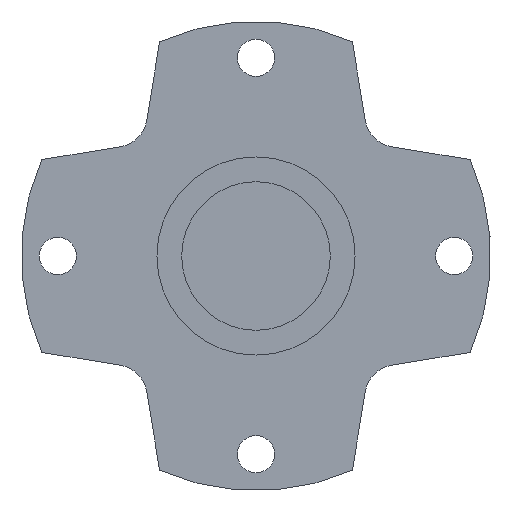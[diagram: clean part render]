
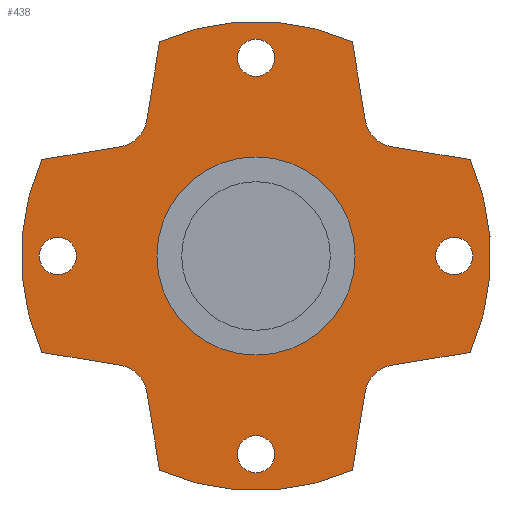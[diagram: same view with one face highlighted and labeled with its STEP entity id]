
A CAD part, left-side view. The second image highlights one B-rep face of the part: STEP entity #438.
In plain terms, the highlighted planar face has unit normal (-1, 0, 0).
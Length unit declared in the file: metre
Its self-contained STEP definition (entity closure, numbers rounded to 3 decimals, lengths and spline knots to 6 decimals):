
#26=LINE('',#688,#58);
#27=LINE('',#692,#59);
#28=LINE('',#696,#60);
#29=LINE('',#700,#61);
#30=LINE('',#704,#62);
#31=LINE('',#708,#63);
#32=LINE('',#712,#64);
#33=LINE('',#716,#65);
#58=VECTOR('',#547,1.);
#59=VECTOR('',#550,1.);
#60=VECTOR('',#553,1.);
#61=VECTOR('',#556,1.);
#62=VECTOR('',#559,1.);
#63=VECTOR('',#562,1.);
#64=VECTOR('',#565,1.);
#65=VECTOR('',#568,1.);
#90=ORIENTED_EDGE('',*,*,#210,.T.);
#91=ORIENTED_EDGE('',*,*,#211,.T.);
#92=ORIENTED_EDGE('',*,*,#212,.T.);
#93=ORIENTED_EDGE('',*,*,#213,.T.);
#94=ORIENTED_EDGE('',*,*,#214,.T.);
#95=ORIENTED_EDGE('',*,*,#215,.F.);
#96=ORIENTED_EDGE('',*,*,#216,.F.);
#97=ORIENTED_EDGE('',*,*,#217,.T.);
#98=ORIENTED_EDGE('',*,*,#218,.T.);
#99=ORIENTED_EDGE('',*,*,#219,.F.);
#100=ORIENTED_EDGE('',*,*,#220,.F.);
#101=ORIENTED_EDGE('',*,*,#221,.T.);
#102=ORIENTED_EDGE('',*,*,#222,.T.);
#103=ORIENTED_EDGE('',*,*,#223,.F.);
#104=ORIENTED_EDGE('',*,*,#224,.F.);
#105=ORIENTED_EDGE('',*,*,#225,.T.);
#106=ORIENTED_EDGE('',*,*,#226,.T.);
#107=ORIENTED_EDGE('',*,*,#227,.F.);
#108=ORIENTED_EDGE('',*,*,#228,.F.);
#109=ORIENTED_EDGE('',*,*,#229,.T.);
#110=ORIENTED_EDGE('',*,*,#230,.T.);
#210=EDGE_CURVE('',#270,#270,#314,.T.);
#211=EDGE_CURVE('',#271,#271,#315,.T.);
#212=EDGE_CURVE('',#272,#272,#316,.T.);
#213=EDGE_CURVE('',#273,#273,#317,.T.);
#214=EDGE_CURVE('',#274,#274,#318,.T.);
#215=EDGE_CURVE('',#275,#276,#319,.T.);
#216=EDGE_CURVE('',#277,#275,#26,.T.);
#217=EDGE_CURVE('',#277,#278,#320,.T.);
#218=EDGE_CURVE('',#278,#279,#27,.T.);
#219=EDGE_CURVE('',#280,#279,#321,.T.);
#220=EDGE_CURVE('',#281,#280,#28,.T.);
#221=EDGE_CURVE('',#281,#282,#322,.T.);
#222=EDGE_CURVE('',#282,#283,#29,.T.);
#223=EDGE_CURVE('',#284,#283,#323,.T.);
#224=EDGE_CURVE('',#285,#284,#30,.T.);
#225=EDGE_CURVE('',#285,#286,#324,.T.);
#226=EDGE_CURVE('',#286,#287,#31,.T.);
#227=EDGE_CURVE('',#288,#287,#325,.T.);
#228=EDGE_CURVE('',#289,#288,#32,.T.);
#229=EDGE_CURVE('',#289,#290,#326,.T.);
#230=EDGE_CURVE('',#290,#276,#33,.T.);
#270=VERTEX_POINT('',#676);
#271=VERTEX_POINT('',#678);
#272=VERTEX_POINT('',#680);
#273=VERTEX_POINT('',#682);
#274=VERTEX_POINT('',#684);
#275=VERTEX_POINT('',#686);
#276=VERTEX_POINT('',#687);
#277=VERTEX_POINT('',#689);
#278=VERTEX_POINT('',#691);
#279=VERTEX_POINT('',#693);
#280=VERTEX_POINT('',#695);
#281=VERTEX_POINT('',#697);
#282=VERTEX_POINT('',#699);
#283=VERTEX_POINT('',#701);
#284=VERTEX_POINT('',#703);
#285=VERTEX_POINT('',#705);
#286=VERTEX_POINT('',#707);
#287=VERTEX_POINT('',#709);
#288=VERTEX_POINT('',#711);
#289=VERTEX_POINT('',#713);
#290=VERTEX_POINT('',#715);
#314=CIRCLE('',#478,0.00075);
#315=CIRCLE('',#479,0.00075);
#316=CIRCLE('',#480,0.00075);
#317=CIRCLE('',#481,0.00075);
#318=CIRCLE('',#482,0.004);
#319=CIRCLE('',#483,0.00948);
#320=CIRCLE('',#484,0.0013);
#321=CIRCLE('',#485,0.00948);
#322=CIRCLE('',#486,0.0013);
#323=CIRCLE('',#487,0.00948);
#324=CIRCLE('',#488,0.0013);
#325=CIRCLE('',#489,0.00948);
#326=CIRCLE('',#490,0.0013);
#342=EDGE_LOOP('',(#90));
#343=EDGE_LOOP('',(#91));
#344=EDGE_LOOP('',(#92));
#345=EDGE_LOOP('',(#93));
#346=EDGE_LOOP('',(#94));
#347=EDGE_LOOP('',(#95,#96,#97,#98,#99,#100,#101,#102,#103,#104,#105,#106,
#107,#108,#109,#110));
#384=FACE_BOUND('',#342,.T.);
#385=FACE_BOUND('',#343,.T.);
#386=FACE_BOUND('',#344,.T.);
#387=FACE_BOUND('',#345,.T.);
#388=FACE_BOUND('',#346,.T.);
#389=FACE_BOUND('',#347,.T.);
#426=PLANE('',#477);
#438=ADVANCED_FACE('',(#384,#385,#386,#387,#388,#389),#426,.F.);
#477=AXIS2_PLACEMENT_3D('',#674,#533,#534);
#478=AXIS2_PLACEMENT_3D('',#675,#535,#536);
#479=AXIS2_PLACEMENT_3D('',#677,#537,#538);
#480=AXIS2_PLACEMENT_3D('',#679,#539,#540);
#481=AXIS2_PLACEMENT_3D('',#681,#541,#542);
#482=AXIS2_PLACEMENT_3D('',#683,#543,#544);
#483=AXIS2_PLACEMENT_3D('',#685,#545,#546);
#484=AXIS2_PLACEMENT_3D('',#690,#548,#549);
#485=AXIS2_PLACEMENT_3D('',#694,#551,#552);
#486=AXIS2_PLACEMENT_3D('',#698,#554,#555);
#487=AXIS2_PLACEMENT_3D('',#702,#557,#558);
#488=AXIS2_PLACEMENT_3D('',#706,#560,#561);
#489=AXIS2_PLACEMENT_3D('',#710,#563,#564);
#490=AXIS2_PLACEMENT_3D('',#714,#566,#567);
#533=DIRECTION('',(1.,0.,0.));
#534=DIRECTION('',(0.,1.,0.));
#535=DIRECTION('',(1.,0.,0.));
#536=DIRECTION('',(0.,0.,-1.));
#537=DIRECTION('',(1.,0.,0.));
#538=DIRECTION('',(0.,0.,-1.));
#539=DIRECTION('',(1.,0.,0.));
#540=DIRECTION('',(0.,0.,-1.));
#541=DIRECTION('',(1.,0.,0.));
#542=DIRECTION('',(0.,0.,-1.));
#543=DIRECTION('',(1.,0.,0.));
#544=DIRECTION('',(0.,0.,-1.));
#545=DIRECTION('',(1.,0.,0.));
#546=DIRECTION('',(0.,0.,-1.));
#547=DIRECTION('',(0.,0.161,-0.987));
#548=DIRECTION('',(1.,0.,0.));
#549=DIRECTION('',(0.,0.,-1.));
#550=DIRECTION('',(0.,-0.987,0.161));
#551=DIRECTION('',(1.,0.,0.));
#552=DIRECTION('',(0.,0.,-1.));
#553=DIRECTION('',(0.,-0.987,-0.161));
#554=DIRECTION('',(1.,0.,0.));
#555=DIRECTION('',(0.,0.,-1.));
#556=DIRECTION('',(0.,0.161,0.987));
#557=DIRECTION('',(1.,0.,0.));
#558=DIRECTION('',(0.,0.,-1.));
#559=DIRECTION('',(0.,-0.161,0.987));
#560=DIRECTION('',(1.,0.,0.));
#561=DIRECTION('',(0.,0.,-1.));
#562=DIRECTION('',(0.,0.987,-0.161));
#563=DIRECTION('',(1.,0.,0.));
#564=DIRECTION('',(0.,0.,-1.));
#565=DIRECTION('',(0.,0.987,0.161));
#566=DIRECTION('',(1.,0.,0.));
#567=DIRECTION('',(0.,0.,-1.));
#568=DIRECTION('',(0.,-0.161,-0.987));
#674=CARTESIAN_POINT('',(0.,0.,0.0926));
#675=CARTESIAN_POINT('',(0.,0.,0.0846));
#676=CARTESIAN_POINT('',(0.,0.,0.08385));
#677=CARTESIAN_POINT('',(0.,-0.008,0.0926));
#678=CARTESIAN_POINT('',(0.,-0.008,0.09185));
#679=CARTESIAN_POINT('',(0.,0.,0.1006));
#680=CARTESIAN_POINT('',(0.,0.,0.09985));
#681=CARTESIAN_POINT('',(0.,0.008,0.0926));
#682=CARTESIAN_POINT('',(0.,0.008,0.09185));
#683=CARTESIAN_POINT('',(0.,0.,0.0926));
#684=CARTESIAN_POINT('',(0.,0.,0.0886));
#685=CARTESIAN_POINT('',(0.,0.,0.0926));
#686=CARTESIAN_POINT('',(0.,-0.003893,0.083955));
#687=CARTESIAN_POINT('',(0.,0.003893,0.083955));
#688=CARTESIAN_POINT('',(0.,-0.003437,0.081158));
#689=CARTESIAN_POINT('',(0.,-0.004407,0.087118));
#690=CARTESIAN_POINT('',(0.,-0.00569,0.08691));
#691=CARTESIAN_POINT('',(0.,-0.005482,0.088193));
#692=CARTESIAN_POINT('',(0.,-0.011442,0.089163));
#693=CARTESIAN_POINT('',(0.,-0.008645,0.088707));
#694=CARTESIAN_POINT('',(0.,0.,0.0926));
#695=CARTESIAN_POINT('',(0.,-0.008645,0.096493));
#696=CARTESIAN_POINT('',(0.,-0.011442,0.096037));
#697=CARTESIAN_POINT('',(0.,-0.005482,0.097007));
#698=CARTESIAN_POINT('',(0.,-0.00569,0.09829));
#699=CARTESIAN_POINT('',(0.,-0.004407,0.098082));
#700=CARTESIAN_POINT('',(0.,-0.003437,0.104042));
#701=CARTESIAN_POINT('',(0.,-0.003893,0.101245));
#702=CARTESIAN_POINT('',(0.,0.,0.0926));
#703=CARTESIAN_POINT('',(0.,0.003893,0.101245));
#704=CARTESIAN_POINT('',(0.,0.003437,0.104042));
#705=CARTESIAN_POINT('',(0.,0.004407,0.098082));
#706=CARTESIAN_POINT('',(0.,0.00569,0.09829));
#707=CARTESIAN_POINT('',(0.,0.005482,0.097007));
#708=CARTESIAN_POINT('',(0.,0.011442,0.096037));
#709=CARTESIAN_POINT('',(0.,0.008645,0.096493));
#710=CARTESIAN_POINT('',(0.,0.,0.0926));
#711=CARTESIAN_POINT('',(0.,0.008645,0.088707));
#712=CARTESIAN_POINT('',(0.,0.011442,0.089163));
#713=CARTESIAN_POINT('',(0.,0.005482,0.088193));
#714=CARTESIAN_POINT('',(0.,0.00569,0.08691));
#715=CARTESIAN_POINT('',(0.,0.004407,0.087118));
#716=CARTESIAN_POINT('',(0.,0.003437,0.081158));
